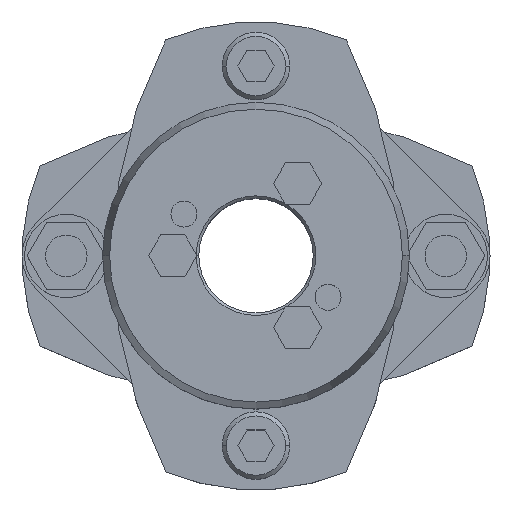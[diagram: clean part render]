
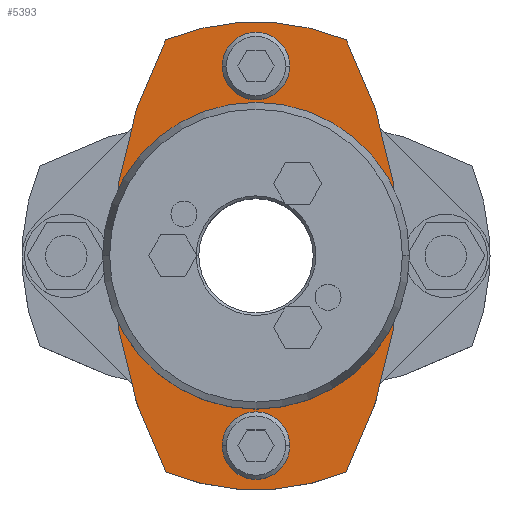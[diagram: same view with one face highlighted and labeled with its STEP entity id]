
A CAD part, top view. The second image highlights one B-rep face of the part: STEP entity #5393.
In plain terms, the highlighted planar face has unit normal (0, 0, 1).
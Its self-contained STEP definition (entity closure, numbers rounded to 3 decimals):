
#771=CARTESIAN_POINT('',(27.5,0.,14.25));
#772=VERTEX_POINT('',#771);
#781=CARTESIAN_POINT('',(17.35,-41.521,14.25));
#782=VERTEX_POINT('',#781);
#783=CARTESIAN_POINT('',(-62.5,0.,14.25));
#784=DIRECTION('',(0.0,0.0,-1.0));
#785=DIRECTION('',(-1.0,0.0,0.0));
#786=AXIS2_PLACEMENT_3D('',#783,#784,#785);
#787=CIRCLE('',#786,90.);
#788=EDGE_CURVE('',#772,#782,#787,.T.);
#815=CARTESIAN_POINT('',(-27.5,0.,14.25));
#816=VERTEX_POINT('',#815);
#832=CARTESIAN_POINT('',(-17.35,-41.521,14.25));
#833=VERTEX_POINT('',#832);
#840=CARTESIAN_POINT('',(62.5,0.,14.25));
#841=DIRECTION('',(0.0,0.0,-1.0));
#842=DIRECTION('',(-1.0,0.0,0.0));
#843=AXIS2_PLACEMENT_3D('',#840,#841,#842);
#844=CIRCLE('',#843,90.);
#845=EDGE_CURVE('',#833,#816,#844,.T.);
#1106=CARTESIAN_POINT('',(-20.5,0.,14.25));
#1107=VERTEX_POINT('',#1106);
#1157=CARTESIAN_POINT('',(20.5,0.,14.25));
#1158=VERTEX_POINT('',#1157);
#1165=CARTESIAN_POINT('',(0.,0.,14.25));
#1166=DIRECTION('',(0.0,0.0,-1.0));
#1167=DIRECTION('',(-1.0,0.0,0.0));
#1168=AXIS2_PLACEMENT_3D('',#1165,#1166,#1167);
#1169=CIRCLE('',#1168,20.5);
#1170=EDGE_CURVE('',#1107,#1158,#1169,.T.);
#1182=CARTESIAN_POINT('',(-6.5,-36.5,14.25));
#1183=VERTEX_POINT('',#1182);
#1199=CARTESIAN_POINT('',(6.5,-36.5,14.25));
#1200=VERTEX_POINT('',#1199);
#1207=CARTESIAN_POINT('',(0.,-36.5,14.25));
#1208=DIRECTION('',(0.0,0.0,-1.0));
#1209=DIRECTION('',(-1.0,0.0,0.0));
#1210=AXIS2_PLACEMENT_3D('',#1207,#1208,#1209);
#1211=CIRCLE('',#1210,6.5);
#1212=EDGE_CURVE('',#1183,#1200,#1211,.T.);
#1256=CARTESIAN_POINT('',(-6.5,36.5,14.25));
#1257=VERTEX_POINT('',#1256);
#1273=CARTESIAN_POINT('',(6.5,36.5,14.25));
#1274=VERTEX_POINT('',#1273);
#1281=CARTESIAN_POINT('',(0.,36.5,14.25));
#1282=DIRECTION('',(0.0,0.0,-1.0));
#1283=DIRECTION('',(-1.0,0.0,0.0));
#1284=AXIS2_PLACEMENT_3D('',#1281,#1282,#1283);
#1285=CIRCLE('',#1284,6.5);
#1286=EDGE_CURVE('',#1257,#1274,#1285,.T.);
#4815=CARTESIAN_POINT('',(0.,36.5,14.25));
#4816=DIRECTION('',(0.0,0.0,-1.0));
#4817=DIRECTION('',(-1.0,0.0,0.0));
#4818=AXIS2_PLACEMENT_3D('',#4815,#4816,#4817);
#4819=CIRCLE('',#4818,6.5);
#4820=EDGE_CURVE('',#1274,#1257,#4819,.T.);
#4875=CARTESIAN_POINT('',(0.,-36.5,14.25));
#4876=DIRECTION('',(0.0,0.0,-1.0));
#4877=DIRECTION('',(-1.0,0.0,0.0));
#4878=AXIS2_PLACEMENT_3D('',#4875,#4876,#4877);
#4879=CIRCLE('',#4878,6.5);
#4880=EDGE_CURVE('',#1200,#1183,#4879,.T.);
#5079=CARTESIAN_POINT('',(0.,0.,14.25));
#5080=DIRECTION('',(0.0,0.0,-1.0));
#5081=DIRECTION('',(-1.0,0.0,0.0));
#5082=AXIS2_PLACEMENT_3D('',#5079,#5080,#5081);
#5083=CIRCLE('',#5082,20.5);
#5084=EDGE_CURVE('',#1158,#1107,#5083,.T.);
#5287=CARTESIAN_POINT('',(0.,0.,14.25));
#5288=DIRECTION('',(0.0,0.0,-1.0));
#5289=DIRECTION('',(-1.0,0.0,0.0));
#5290=AXIS2_PLACEMENT_3D('',#5287,#5288,#5289);
#5291=CIRCLE('',#5290,45.);
#5292=EDGE_CURVE('',#782,#833,#5291,.T.);
#5306=CARTESIAN_POINT('',(-17.35,41.521,14.25));
#5307=VERTEX_POINT('',#5306);
#5308=CARTESIAN_POINT('',(62.5,0.,14.25));
#5309=DIRECTION('',(0.0,0.0,-1.0));
#5310=DIRECTION('',(-1.0,0.0,0.0));
#5311=AXIS2_PLACEMENT_3D('',#5308,#5309,#5310);
#5312=CIRCLE('',#5311,90.);
#5313=EDGE_CURVE('',#816,#5307,#5312,.T.);
#5330=CARTESIAN_POINT('',(17.35,41.521,14.25));
#5331=VERTEX_POINT('',#5330);
#5332=CARTESIAN_POINT('',(0.,0.,14.25));
#5333=DIRECTION('',(0.0,0.0,-1.0));
#5334=DIRECTION('',(-1.0,0.0,0.0));
#5335=AXIS2_PLACEMENT_3D('',#5332,#5333,#5334);
#5336=CIRCLE('',#5335,45.);
#5337=EDGE_CURVE('',#5307,#5331,#5336,.T.);
#5358=CARTESIAN_POINT('',(-62.5,0.,14.25));
#5359=DIRECTION('',(0.0,0.0,-1.0));
#5360=DIRECTION('',(-1.0,0.0,0.0));
#5361=AXIS2_PLACEMENT_3D('',#5358,#5359,#5360);
#5362=CIRCLE('',#5361,90.);
#5363=EDGE_CURVE('',#5331,#772,#5362,.T.);
#5368=CARTESIAN_POINT('',(0.,0.,14.25));
#5369=DIRECTION('',(0.0,0.0,1.0));
#5370=DIRECTION('',(-1.0,0.0,0.0));
#5371=AXIS2_PLACEMENT_3D('',#5368,#5369,#5370);
#5372=PLANE('',#5371);
#5373=ORIENTED_EDGE('',*,*,#5292,.F.);
#5374=ORIENTED_EDGE('',*,*,#788,.F.);
#5375=ORIENTED_EDGE('',*,*,#5363,.F.);
#5376=ORIENTED_EDGE('',*,*,#5337,.F.);
#5377=ORIENTED_EDGE('',*,*,#5313,.F.);
#5378=ORIENTED_EDGE('',*,*,#845,.F.);
#5379=EDGE_LOOP('',(#5373,#5374,#5375,#5376,#5377,#5378));
#5380=FACE_OUTER_BOUND('',#5379,.T.);
#5381=ORIENTED_EDGE('',*,*,#1286,.T.);
#5382=ORIENTED_EDGE('',*,*,#4820,.T.);
#5383=EDGE_LOOP('',(#5381,#5382));
#5384=FACE_BOUND('',#5383,.T.);
#5385=ORIENTED_EDGE('',*,*,#1212,.T.);
#5386=ORIENTED_EDGE('',*,*,#4880,.T.);
#5387=EDGE_LOOP('',(#5385,#5386));
#5388=FACE_BOUND('',#5387,.T.);
#5389=ORIENTED_EDGE('',*,*,#1170,.T.);
#5390=ORIENTED_EDGE('',*,*,#5084,.T.);
#5391=EDGE_LOOP('',(#5389,#5390));
#5392=FACE_BOUND('',#5391,.T.);
#5393=ADVANCED_FACE('',(#5380,#5384,#5388,#5392),#5372,.T.);
